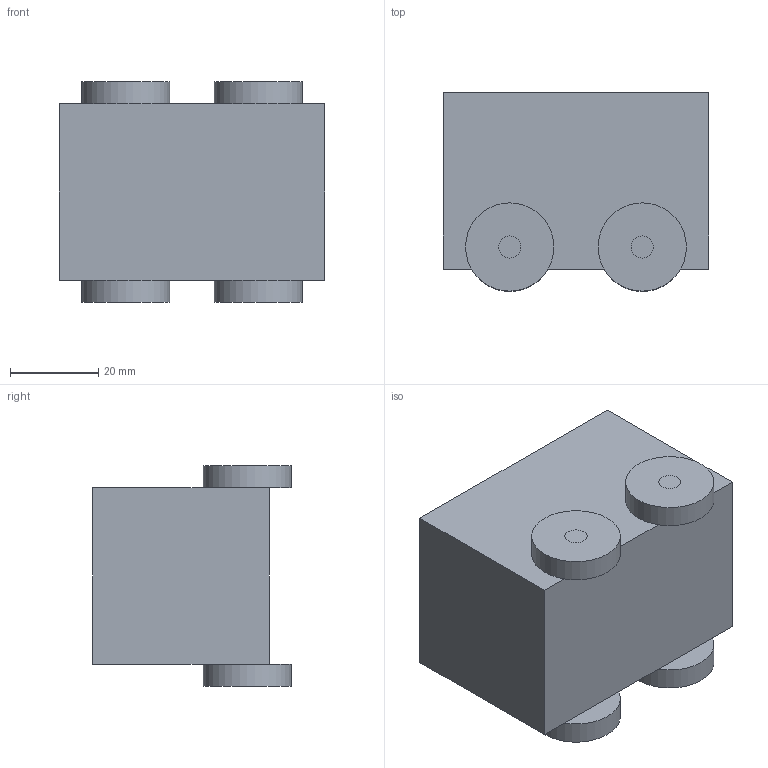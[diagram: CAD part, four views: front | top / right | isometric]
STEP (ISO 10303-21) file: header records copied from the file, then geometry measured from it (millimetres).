
FILE_DESCRIPTION(/* description */ (''),/* implementation_level */ '2;1');
FILE_NAME(/* name */ 'E:\OneDrive\Desktop\N5_GC_Sections\Task 5\ASSY_Task_5.stp',/* time_stamp */ '2020-06-08T13:27:34+01:00',/* author */ ('hunte'),/* organization */ (''),/* preprocessor_version */ 'ST-DEVELOPER v18.1',/* originating_system */ 'Autodesk Inventor 2020',/* authorisation */ '');
FILE_SCHEMA (('AUTOMOTIVE_DESIGN { 1 0 10303 214 3 1 1 }'));
Length unit declared in the file: millimetre
Products named in the file (4): ASSY_Task_5; Part_A; PRT_B; PRT_C
Assembly tree (7 placements, depth 2):
  ASSY_Task_5
    Part_A
    PRT_B  x2
    PRT_C  x4
Bounding box: 60 x 45 x 50 mm (x, y, z)
Volume: 57283.2 mm3; surface area: 24354.4 mm2
Topology: 7 solids, 7 shells, 35 faces, 72 edges, 52 vertices
Faces by surface type: plane 23, cylinder 12
Full cylindrical faces by diameter (mm): 5 x8, 20 x4
Entity records: 740 total; most frequent: DIRECTION 119, CARTESIAN_POINT 104, ORIENTED_EDGE 86, AXIS2_PLACEMENT_3D 45, EDGE_CURVE 43, VERTEX_POINT 30, LINE 29, VECTOR 29
